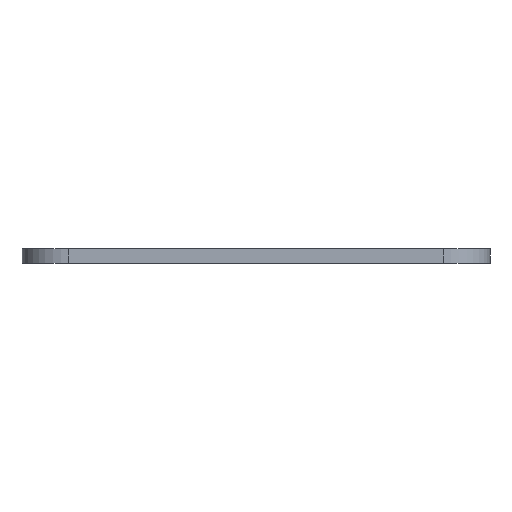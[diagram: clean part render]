
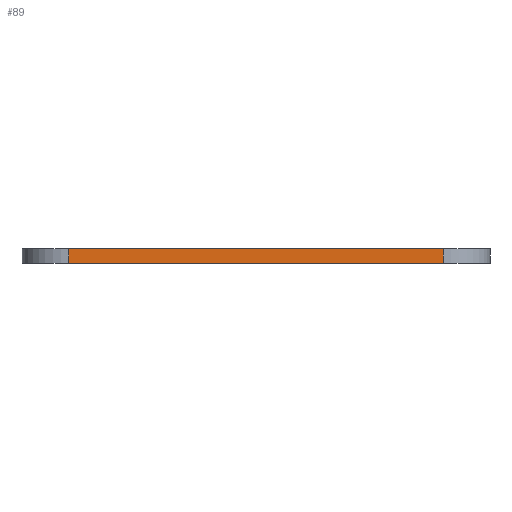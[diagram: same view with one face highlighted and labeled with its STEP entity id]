
A CAD part, front view. The second image highlights one B-rep face of the part: STEP entity #89.
In plain terms, the highlighted planar face has unit normal (0, -1, 0).
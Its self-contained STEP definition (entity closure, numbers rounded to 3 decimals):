
#80=FACE_OUTER_BOUND('',#307,.T.);
#89=ADVANCED_FACE('',(#80),#127,.T.);
#127=PLANE('',#813);
#135=LINE('',#1176,#151);
#139=LINE('',#1188,#155);
#140=LINE('',#1193,#156);
#142=LINE('',#1196,#158);
#151=VECTOR('',#945,1.);
#155=VECTOR('',#957,1.);
#156=VECTOR('',#962,1.);
#158=VECTOR('',#966,1.);
#307=EDGE_LOOP('',(#445,#446,#447,#448));
#445=ORIENTED_EDGE('',*,*,#672,.T.);
#446=ORIENTED_EDGE('',*,*,#674,.T.);
#447=ORIENTED_EDGE('',*,*,#670,.T.);
#448=ORIENTED_EDGE('',*,*,#664,.T.);
#586=VERTEX_POINT('',#1163);
#592=VERTEX_POINT('',#1175);
#595=VERTEX_POINT('',#1185);
#598=VERTEX_POINT('',#1192);
#664=EDGE_CURVE('',#586,#592,#135,.T.);
#670=EDGE_CURVE('',#595,#586,#139,.T.);
#672=EDGE_CURVE('',#592,#598,#140,.T.);
#674=EDGE_CURVE('',#598,#595,#142,.T.);
#813=AXIS2_PLACEMENT_3D('',#1197,#967,#968);
#945=DIRECTION('',(1.,0.,0.));
#957=DIRECTION('',(0.,0.,-1.));
#962=DIRECTION('',(0.,0.,1.));
#966=DIRECTION('',(-1.,0.,0.));
#967=DIRECTION('',(0.,-1.,0.));
#968=DIRECTION('',(0.,0.,-1.));
#1163=CARTESIAN_POINT('',(410.,100.,402.));
#1175=CARTESIAN_POINT('',(490.,100.,402.));
#1176=CARTESIAN_POINT('',(400.,100.,402.));
#1185=CARTESIAN_POINT('',(410.,100.,405.));
#1188=CARTESIAN_POINT('',(410.,100.,405.));
#1192=CARTESIAN_POINT('',(490.,100.,405.));
#1193=CARTESIAN_POINT('',(490.,100.,402.));
#1196=CARTESIAN_POINT('',(500.,100.,405.));
#1197=CARTESIAN_POINT('',(500.,100.,405.));
